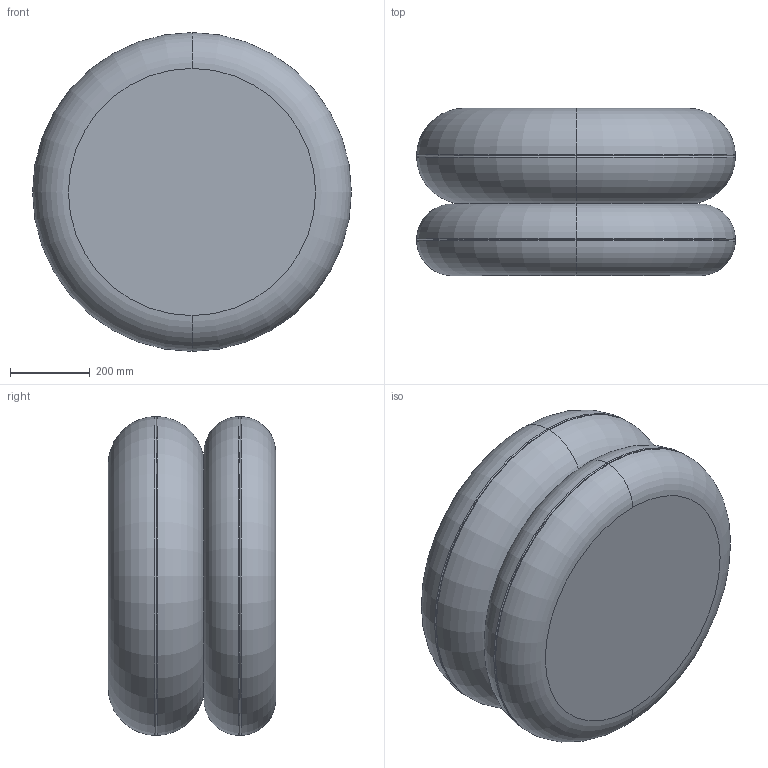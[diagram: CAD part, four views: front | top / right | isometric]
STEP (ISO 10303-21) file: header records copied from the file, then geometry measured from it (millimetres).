
FILE_DESCRIPTION (( 'STEP AP214' ), '1' );
FILE_NAME ('Easy Pouf.STEP', '2024-04-03T09:15:23', ( '' ), ( '' ), 'SwSTEP 2.0', 'SolidWorks 2022', '' );
FILE_SCHEMA (( 'AUTOMOTIVE_DESIGN' ));
Length unit declared in the file: millimetre
Products named in the file (1): Easy Pouf
Bounding box: 799.92 x 420 x 799.92 mm (x, y, z)
Volume: 188303853.4 mm3; surface area: 2117595.6 mm2
Topology: 1 solids, 1 shells, 19 faces, 36 edges, 20 vertices
Faces by surface type: torus 16, plane 3
Entity records: 524 total; most frequent: DIRECTION 112, CARTESIAN_POINT 76, ORIENTED_EDGE 72, AXIS2_PLACEMENT_3D 56, EDGE_CURVE 36, CIRCLE 36, EDGE_LOOP 20, VERTEX_POINT 20
